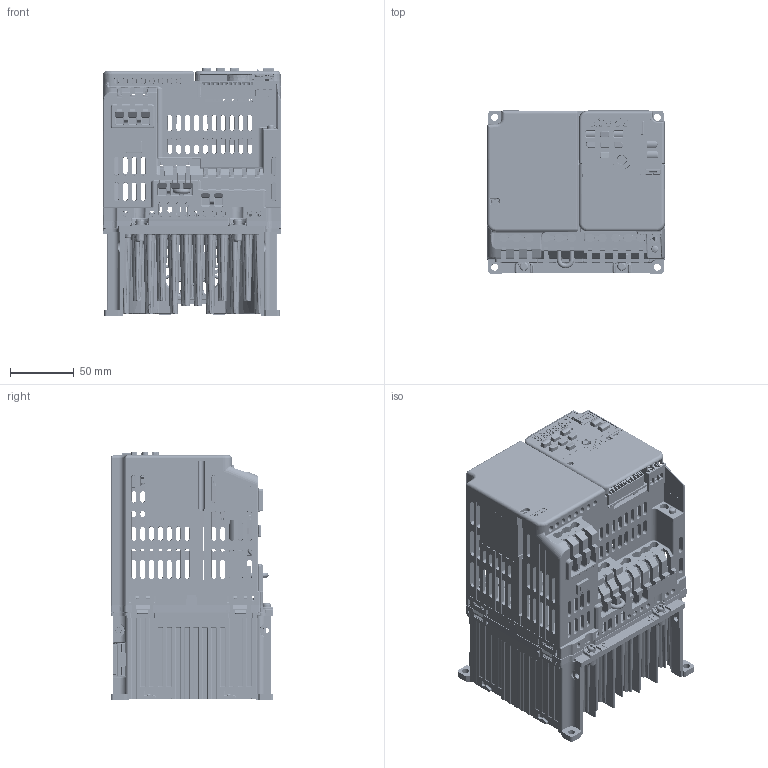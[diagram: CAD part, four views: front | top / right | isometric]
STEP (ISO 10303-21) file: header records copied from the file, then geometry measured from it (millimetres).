
FILE_DESCRIPTION((''),'2;1');
FILE_NAME('GA500_EMC_FRAME_V3-A_ASM','2019-03-11T',('anm'),('YASKAWA ELECTRIC CORCORATION'),'PRO/ENGINEER BY PARAMETRIC TECHNOLOGY CORPORATION, 2015440','PRO/ENGINEER BY PARAMETRIC TECHNOLOGY CORPORATION, 2015440','');
FILE_SCHEMA(('CONFIG_CONTROL_DESIGN'));
Products named in the file (56): LAY_KIPR-GA50_Q_2021_1_1_1_1; 400-104-196_1_1_1_1; SCAT41279-1_1_1_1_1; 400-104-227_1_1_1_1; 05020VE24XBA-XXX_1_1_1_1; 400-107-684_1_1_1_1; 400-104-020-01B-1_6PCB_1_1_1_1; MKDS10HV_5-ZB-10P16_1_1_1_1; KTP761931_6PCB_ASM_1_ASM_1_ASM__ASM; ASSY_KTP761931_6PCB_ASM_1_ASM_1_ASM; 400-104-020-01B-1_5PCB_1_1_1_1; MKDS10HV_3-ZB-10P16_1_1_1_1; KTP760481_5PCB_ASM_1_ASM_1_ASM__ASM; 400-104-267_ASM_1_ASM_1_ASM_1_1; 400-104-021-01C-2_AF0_1_1_1_1; KTX731443_ASM_1_ASM_1_ASM_1_ASM_ASM; 400-104-266_1_1_1_1; HSR-M3-5P3_1_1_1_1; 400-104-266_ASM_1_ASM_1_ASM_1_A_ASM; MS15_M3X20_1_1_1_1; 400-104-023-01F-5_1PCB_1_1_1_1; 95003-2884_1_1_1_1; B12B-PASK-1_1_1_1_1; 1734753-1_AF1_1_1_1_1; DHB-PD20-S131N-4P9_AF1_1_1_1_1; KARI_SPTA1_9-3P5_AF0_1_1_1_1; KARI_SPTA1_8-3P5_AF0_1_1_1_1; SPTA1_11-3P5_AF0_1_1_1_1; SPTA1_3-5P0_AF0_1_1_1_1; KTC750050-SXXXX_ASM_1_ASM_1_ASM_ASM; F354371_2_1_1_1; F354373_2_1_1_1; F354374_2_1_1_1; F354372_2_1_1_1; V-GEM_PWB2_2_1_1_1; 55265-0811_AF0_2_1_1_1; SM10B-SURS-TF_1_2_1_1_1; V-GIM_PWB_ASM2_ASM_2_ASM_1_ASM__ASM; GA500_KEYPAD_20180227_ASM_2_ASM_ASM; 400-104-186_1_1_1_1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
Assembly tree (57 placements, depth 8):
  GA500_EMC_FRAME_V3-A_ASM
    GA500_EMC_FRAME_V3-A_ASM_1_ASM
      GA500_EMC_FRAME_V3-A_ASM_1_ASM__ASM
        Q2V_FRAME_V3-A_ASM_1_ASM_1_ASM__ASM
          00_CIPR-GA50Z2021XXXX_ASM_4_ASM_ASM
            LAY_KIPR-GA50_Q_2021_1_1_1_1
            400-104-196_1_1_1_1
            SCAT41279-1_1_1_1_1  x2
            400-104-227_1_1_1_1
            05020VE24XBA-XXX_1_1_1_1
            400-107-684_1_1_1_1
            ASSY_KTP761931_6PCB_ASM_1_ASM_1_ASM
              KTP761931_6PCB_ASM_1_ASM_1_ASM__ASM
                400-104-020-01B-1_6PCB_1_1_1_1
                MKDS10HV_5-ZB-10P16_1_1_1_1
            KTP760481_5PCB_ASM_1_ASM_1_ASM__ASM
              400-104-020-01B-1_5PCB_1_1_1_1
              MKDS10HV_3-ZB-10P16_1_1_1_1
            400-104-267_ASM_1_ASM_1_ASM_1_1
            KTX731443_ASM_1_ASM_1_ASM_1_ASM_ASM
              400-104-021-01C-2_AF0_1_1_1_1
              MKDS10HV_3-ZB-10P16_1_1_1_1
            400-104-266_ASM_1_ASM_1_ASM_1_A_ASM
              400-104-266_1_1_1_1
              HSR-M3-5P3_1_1_1_1
            MS15_M3X20_1_1_1_1
            KTC750050-SXXXX_ASM_1_ASM_1_ASM_ASM
              400-104-023-01F-5_1PCB_1_1_1_1
              95003-2884_1_1_1_1
              B12B-PASK-1_1_1_1_1
              1734753-1_AF1_1_1_1_1
              DHB-PD20-S131N-4P9_AF1_1_1_1_1
              KARI_SPTA1_9-3P5_AF0_1_1_1_1
              KARI_SPTA1_8-3P5_AF0_1_1_1_1
              SPTA1_11-3P5_AF0_1_1_1_1
              SPTA1_3-5P0_AF0_1_1_1_1
            GA500_KEYPAD_20180227_ASM_2_ASM_ASM
              F354371_2_1_1_1
              F354373_2_1_1_1
              F354374_2_1_1_1
              F354372_2_1_1_1
              V-GIM_PWB_ASM2_ASM_2_ASM_1_ASM__ASM
                V-GEM_PWB2_2_1_1_1
                55265-0811_AF0_2_1_1_1
                SM10B-SURS-TF_1_2_1_1_1
            400-104-186_1_1_1_1
            400-104-251_1_1_1_1
            400-115-297-003_1_1_1_1
            400-108-079_1_1_1_1
            400-104-204_1_1_1_1_1
            400-104-204_2_1_1_1_1
            400-104-204_3_1_1_1_1
            400-118-612_10_1_1_1_1
            400-118-612_11_1_1_1_1
            400-118-612_12_1_1_1_1
            400-104-204_6_1_1_1_1
            400-104-206_3_1_1_1_1
Bounding box: 140.58 x 128.29 x 195.75 mm (x, y, z)
Volume: 339672.5 mm3; surface area: 539269.5 mm2
Topology: 40 solids, 49 shells, 17354 faces, 48505 edges, 31244 vertices
Faces by surface type: plane 10647, cylinder 3570, cone 1163, bspline 1010, torus 590, sphere 366, extrusion 8
Entity records: 603905 total; most frequent: CARTESIAN_POINT 173143, ORIENTED_EDGE 94614, DIRECTION 82250, EDGE_CURVE 47328, VECTOR 32558, LINE 32550, VERTEX_POINT 30725, AXIS2_PLACEMENT_3D 24846
